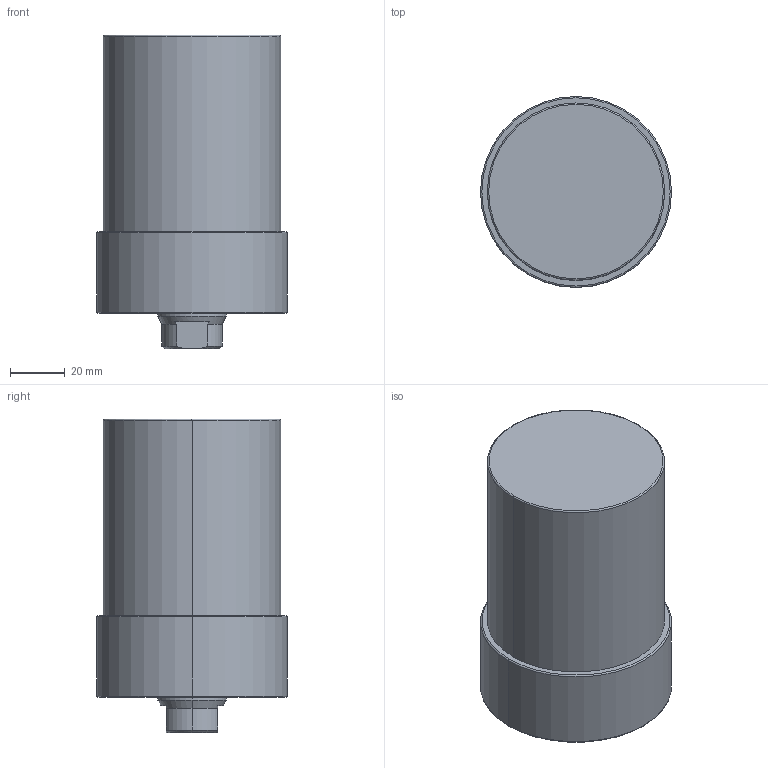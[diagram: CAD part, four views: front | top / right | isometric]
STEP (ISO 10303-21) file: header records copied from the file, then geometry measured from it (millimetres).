
FILE_DESCRIPTION (( 'STEP AP203' ), '1' );
FILE_NAME ('CLLU-065GA-055.STEP', '2020-01-06T08:14:01', ( '' ), ( '' ), 'SwSTEP 2.0', 'SolidWorks 2015', '' );
FILE_SCHEMA (( 'CONFIG_CONTROL_DESIGN' ));
Length unit declared in the file: millimetre
Products named in the file (1): CLLU-065GA-055
Bounding box: 70 x 70 x 115 mm (x, y, z)
Volume: 354908.9 mm3; surface area: 31866.5 mm2
Topology: 1 solids, 1 shells, 64 faces, 145 edges, 82 vertices
Faces by surface type: cone 25, cylinder 23, plane 10, torus 6
Entity records: 1811 total; most frequent: DIRECTION 332, CARTESIAN_POINT 310, ORIENTED_EDGE 270, AXIS2_PLACEMENT_3D 140, EDGE_CURVE 135, VERTEX_POINT 82, CIRCLE 75, EDGE_LOOP 73
